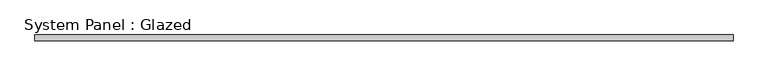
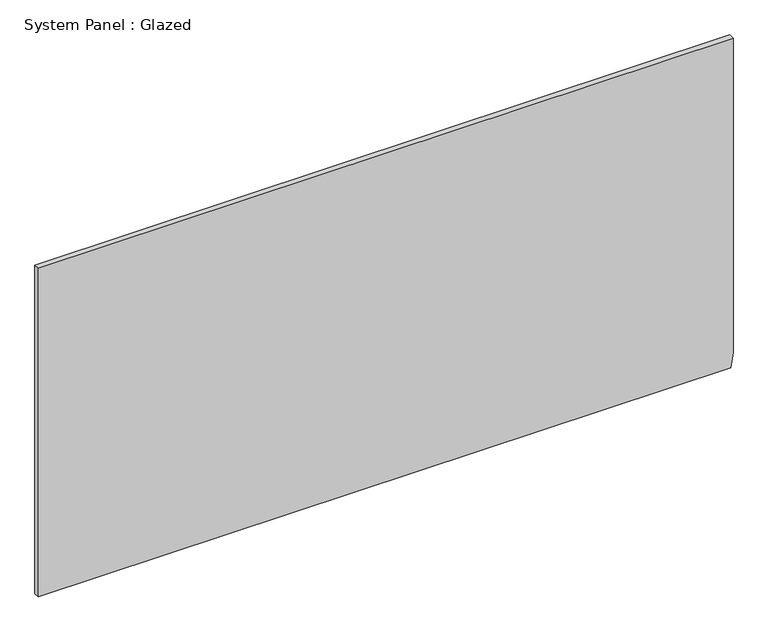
"""IFC4 building model written with IfcOpenShell, lengths in millimetres: plate geometry, System Panel : Glazed."""

from ifc_helpers import new_model, si_unit, frame, origin, place, context, project, spatial, polyline, outline, extrude, source, transform, mapped, element, save


def system_panel_glazed_654e2594(model_context):
    return source(origin(), model_context, "Body", "SweptSolid", [
        extrude(outline(polyline([(0.0, -1524.0000001), (0.0, 1514.6349712), (65.7572421, 1524.0000001), (1524.0, 1524.0000001), (1524.0, -1524.0000001), (0.0, -1524.0000001)])), frame((0.0, 19.05, 0.0), z_axis=(0.0, 1.0, 0.0), x_axis=(0.0, 0.0, 1.0)), (0.0, 0.0, 1.0), 25.4),
    ])


if __name__ == "__main__":
    model = new_model("IFC4")
    model_context = context("Model", 3, world=origin())
    ifc_project = project(units=[si_unit("LENGTHUNIT", "METRE", prefix="MILLI")], contexts=[model_context])
    site = spatial("IfcSite", under=ifc_project)
    building = spatial("IfcBuilding", under=site)
    placement = place(None, origin())
    system_panel_glazed_shape = system_panel_glazed_654e2594(model_context)
    element("IfcPlate", 1, ObjectType="System Panel : Glazed", at=placement, inside=building, context=model_context, shape_type="MappedRepresentation", body=[
        mapped(system_panel_glazed_shape, transform((0.0, 0.0, 0.0), x_axis=(1.0, 0.0, 0.0), y_axis=(0.0, 1.0, 0.0), z_axis=(0.0, 0.0, 1.0))),
    ])
    save(model, "model.ifc")
